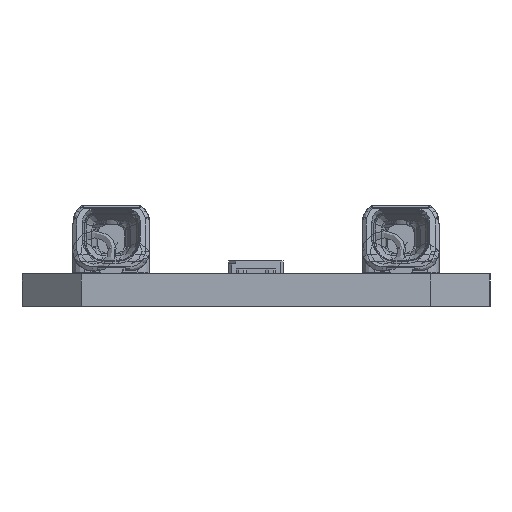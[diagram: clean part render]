
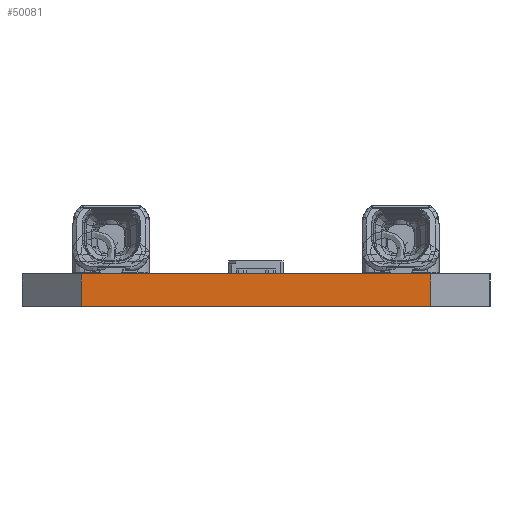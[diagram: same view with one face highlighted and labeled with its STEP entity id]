
A CAD part, left-side view. The second image highlights one B-rep face of the part: STEP entity #50081.
In plain terms, the highlighted planar face has unit normal (-1, 0, 0).
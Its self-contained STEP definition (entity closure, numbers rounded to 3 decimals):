
#7716=DIRECTION('',(0.,1.,0.));
#7717=VECTOR('',#7716,17.6);
#7718=CARTESIAN_POINT('',(-279.5,-8.8,0.));
#7719=LINE('',#7718,#7717);
#8097=DIRECTION('',(0.,0.,1.));
#8098=VECTOR('',#8097,1.65);
#8099=CARTESIAN_POINT('',(-279.5,8.8,0.));
#8100=LINE('',#8099,#8098);
#8101=DIRECTION('',(0.,0.,1.));
#8102=VECTOR('',#8101,1.65);
#8103=CARTESIAN_POINT('',(-279.5,-8.8,0.));
#8104=LINE('',#8103,#8102);
#8105=DIRECTION('',(0.,1.,0.));
#8106=VECTOR('',#8105,17.6);
#8107=CARTESIAN_POINT('',(-279.5,-8.8,1.65));
#8108=LINE('',#8107,#8106);
#38220=CARTESIAN_POINT('',(-279.5,8.8,0.));
#38221=CARTESIAN_POINT('',(-279.5,8.8,1.65));
#38222=VERTEX_POINT('',#38220);
#38223=VERTEX_POINT('',#38221);
#38276=CARTESIAN_POINT('',(-279.5,-8.8,0.));
#38277=VERTEX_POINT('',#38276);
#38326=CARTESIAN_POINT('',(-279.5,-8.8,1.65));
#38328=VERTEX_POINT('',#38326);
#50069=CARTESIAN_POINT('',(-279.5,8.8,1.65));
#50070=DIRECTION('',(-1.,0.,0.));
#50071=DIRECTION('',(0.,0.,1.));
#50072=AXIS2_PLACEMENT_3D('',#50069,#50070,#50071);
#50073=PLANE('',#50072);
#50075=ORIENTED_EDGE('',*,*,#50074,.F.);
#50076=ORIENTED_EDGE('',*,*,#49687,.T.);
#50077=ORIENTED_EDGE('',*,*,#50061,.T.);
#50078=ORIENTED_EDGE('',*,*,#47035,.F.);
#50079=EDGE_LOOP('',(#50075,#50076,#50077,#50078));
#50080=FACE_OUTER_BOUND('',#50079,.F.);
#50081=ADVANCED_FACE('',(#50080),#50073,.T.);
#47035=EDGE_CURVE('',#38328,#38223,#8108,.T.);
#49687=EDGE_CURVE('',#38277,#38222,#7719,.T.);
#50061=EDGE_CURVE('',#38222,#38223,#8100,.T.);
#50074=EDGE_CURVE('',#38277,#38328,#8104,.T.);
